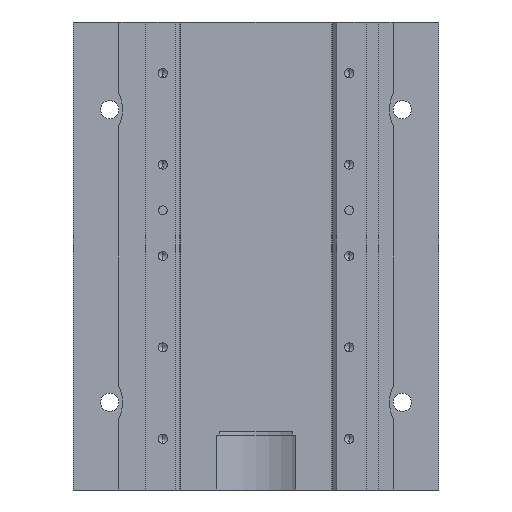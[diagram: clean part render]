
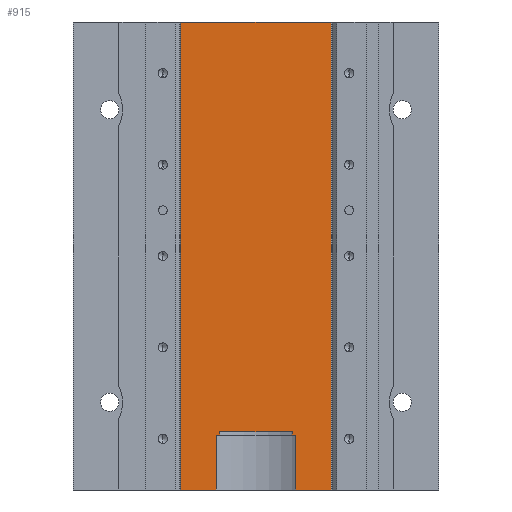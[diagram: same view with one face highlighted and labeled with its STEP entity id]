
A CAD part, front view. The second image highlights one B-rep face of the part: STEP entity #915.
In plain terms, the highlighted planar face has unit normal (0, -1, 0).
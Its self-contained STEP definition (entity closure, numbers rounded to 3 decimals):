
#462 = VERTEX_POINT ( 'NONE', #2282 ) ;
#466 = VERTEX_POINT ( 'NONE', #2276 ) ;
#511 = VERTEX_POINT ( 'NONE', #2436 ) ;
#517 = VERTEX_POINT ( 'NONE', #2425 ) ;
#519 = EDGE_CURVE ( 'NONE', #511, #517, #2424, .T. ) ;
#524 = EDGE_CURVE ( 'NONE', #462, #466, #2409, .T. ) ;
#758 = VERTEX_POINT ( 'NONE', #2849 ) ;
#760 = EDGE_CURVE ( 'NONE', #758, #822, #2848, .T. ) ;
#797 = VERTEX_POINT ( 'NONE', #2913 ) ;
#799 = EDGE_CURVE ( 'NONE', #800, #797, #2912, .T. ) ;
#800 = VERTEX_POINT ( 'NONE', #2908 ) ;
#822 = VERTEX_POINT ( 'NONE', #2946 ) ;
#833 = VERTEX_POINT ( 'NONE', #2931 ) ;
#835 = EDGE_CURVE ( 'NONE', #517, #833, #2930, .T. ) ;
#915 = ADVANCED_FACE ( 'NONE', ( #3070 ), #3069, .F. ) ;
#916 = EDGE_LOOP ( 'NONE', ( #917, #919, #976, #977, #979, #980, #981, #982, #985, #988, #966, #968 ) ) ;
#917 = ORIENTED_EDGE ( 'NONE', *, *, #918, .T. ) ;
#918 = EDGE_CURVE ( 'NONE', #466, #511, #3064, .T. ) ;
#919 = ORIENTED_EDGE ( 'NONE', *, *, #519, .T. ) ;
#965 = EDGE_CURVE ( 'NONE', #987, #989, #3132, .T. ) ;
#966 = ORIENTED_EDGE ( 'NONE', *, *, #967, .T. ) ;
#967 = EDGE_CURVE ( 'NONE', #989, #462, #3128, .T. ) ;
#968 = ORIENTED_EDGE ( 'NONE', *, *, #524, .T. ) ;
#976 = ORIENTED_EDGE ( 'NONE', *, *, #835, .T. ) ;
#977 = ORIENTED_EDGE ( 'NONE', *, *, #978, .F. ) ;
#978 = EDGE_CURVE ( 'NONE', #822, #833, #3176, .T. ) ;
#979 = ORIENTED_EDGE ( 'NONE', *, *, #760, .F. ) ;
#980 = ORIENTED_EDGE ( 'NONE', *, *, #993, .T. ) ;
#981 = ORIENTED_EDGE ( 'NONE', *, *, #799, .T. ) ;
#982 = ORIENTED_EDGE ( 'NONE', *, *, #983, .T. ) ;
#983 = EDGE_CURVE ( 'NONE', #797, #984, #3172, .T. ) ;
#984 = VERTEX_POINT ( 'NONE', #3168 ) ;
#985 = ORIENTED_EDGE ( 'NONE', *, *, #986, .T. ) ;
#986 = EDGE_CURVE ( 'NONE', #984, #987, #3167, .T. ) ;
#987 = VERTEX_POINT ( 'NONE', #3163 ) ;
#988 = ORIENTED_EDGE ( 'NONE', *, *, #965, .T. ) ;
#989 = VERTEX_POINT ( 'NONE', #3162 ) ;
#993 = EDGE_CURVE ( 'NONE', #758, #800, #3155, .T. ) ;
#2276 = CARTESIAN_POINT ( 'NONE',  ( 9.915, -16.5, 15. ) ) ;
#2282 = CARTESIAN_POINT ( 'NONE',  ( 9.915, -16.5, 16. ) ) ;
#2408 = CARTESIAN_POINT ( 'NONE',  ( 9.915, -16.5, 0. ) ) ;
#2409 = LINE ( 'NONE', #2408, #2471 ) ;
#2421 = DIRECTION ( 'NONE',  ( 0., 0., -1. ) ) ;
#2422 = VECTOR ( 'NONE', #2421, 1000. ) ;
#2423 = CARTESIAN_POINT ( 'NONE',  ( 10.854, -16.5, 0. ) ) ;
#2424 = LINE ( 'NONE', #2423, #2422 ) ;
#2425 = CARTESIAN_POINT ( 'NONE',  ( 10.854, -16.5, 0. ) ) ;
#2436 = CARTESIAN_POINT ( 'NONE',  ( 10.854, -16.5, 15. ) ) ;
#2470 = DIRECTION ( 'NONE',  ( 0., 0., -1. ) ) ;
#2471 = VECTOR ( 'NONE', #2470, 1000. ) ;
#2845 = DIRECTION ( 'NONE',  ( 1., 0., 0. ) ) ;
#2846 = VECTOR ( 'NONE', #2845, 1000. ) ;
#2847 = CARTESIAN_POINT ( 'NONE',  ( -20.64, -16.5, 128. ) ) ;
#2848 = LINE ( 'NONE', #2847, #2846 ) ;
#2849 = CARTESIAN_POINT ( 'NONE',  ( -20.64, -16.5, 128. ) ) ;
#2908 = CARTESIAN_POINT ( 'NONE',  ( -20.64, -16.5, 0. ) ) ;
#2909 = DIRECTION ( 'NONE',  ( 1., 0., 0. ) ) ;
#2910 = VECTOR ( 'NONE', #2909, 1000. ) ;
#2911 = CARTESIAN_POINT ( 'NONE',  ( -20.64, -16.5, 0. ) ) ;
#2912 = LINE ( 'NONE', #2911, #2910 ) ;
#2913 = CARTESIAN_POINT ( 'NONE',  ( -10.854, -16.5, 0. ) ) ;
#2927 = DIRECTION ( 'NONE',  ( 1., 0., 0. ) ) ;
#2928 = VECTOR ( 'NONE', #2927, 1000. ) ;
#2929 = CARTESIAN_POINT ( 'NONE',  ( -20.64, -16.5, 0. ) ) ;
#2930 = LINE ( 'NONE', #2929, #2928 ) ;
#2931 = CARTESIAN_POINT ( 'NONE',  ( 20.64, -16.5, 0. ) ) ;
#2946 = CARTESIAN_POINT ( 'NONE',  ( 20.64, -16.5, 128. ) ) ;
#3061 = DIRECTION ( 'NONE',  ( 1., 0., 0. ) ) ;
#3062 = VECTOR ( 'NONE', #3061, 1000. ) ;
#3063 = CARTESIAN_POINT ( 'NONE',  ( -20.64, -16.5, 15. ) ) ;
#3064 = LINE ( 'NONE', #3063, #3062 ) ;
#3065 = DIRECTION ( 'NONE',  ( 0., 0., 1. ) ) ;
#3066 = DIRECTION ( 'NONE',  ( 0., 1., 0. ) ) ;
#3067 = CARTESIAN_POINT ( 'NONE',  ( -20.64, -16.5, 128. ) ) ;
#3068 = AXIS2_PLACEMENT_3D ( 'NONE', #3067, #3066, #3065 ) ;
#3069 = PLANE ( 'NONE',  #3068 ) ;
#3070 = FACE_OUTER_BOUND ( 'NONE', #916, .T. ) ;
#3125 = DIRECTION ( 'NONE',  ( 1., 0., 0. ) ) ;
#3126 = VECTOR ( 'NONE', #3125, 1000. ) ;
#3127 = CARTESIAN_POINT ( 'NONE',  ( -20.64, -16.5, 16. ) ) ;
#3128 = LINE ( 'NONE', #3127, #3126 ) ;
#3129 = DIRECTION ( 'NONE',  ( 0., 0., 1. ) ) ;
#3130 = VECTOR ( 'NONE', #3129, 1000. ) ;
#3131 = CARTESIAN_POINT ( 'NONE',  ( -9.915, -16.5, 0. ) ) ;
#3132 = LINE ( 'NONE', #3131, #3130 ) ;
#3152 = DIRECTION ( 'NONE',  ( 0., 0., -1. ) ) ;
#3153 = VECTOR ( 'NONE', #3152, 1000. ) ;
#3154 = CARTESIAN_POINT ( 'NONE',  ( -20.64, -16.5, 128. ) ) ;
#3155 = LINE ( 'NONE', #3154, #3153 ) ;
#3162 = CARTESIAN_POINT ( 'NONE',  ( -9.915, -16.5, 16. ) ) ;
#3163 = CARTESIAN_POINT ( 'NONE',  ( -9.915, -16.5, 15. ) ) ;
#3164 = DIRECTION ( 'NONE',  ( 1., 0., 0. ) ) ;
#3165 = VECTOR ( 'NONE', #3164, 1000. ) ;
#3166 = CARTESIAN_POINT ( 'NONE',  ( -20.64, -16.5, 15. ) ) ;
#3167 = LINE ( 'NONE', #3166, #3165 ) ;
#3168 = CARTESIAN_POINT ( 'NONE',  ( -10.854, -16.5, 15. ) ) ;
#3169 = DIRECTION ( 'NONE',  ( 0., 0., 1. ) ) ;
#3170 = VECTOR ( 'NONE', #3169, 1000. ) ;
#3171 = CARTESIAN_POINT ( 'NONE',  ( -10.854, -16.5, 0. ) ) ;
#3172 = LINE ( 'NONE', #3171, #3170 ) ;
#3173 = DIRECTION ( 'NONE',  ( 0., 0., -1. ) ) ;
#3174 = VECTOR ( 'NONE', #3173, 1000. ) ;
#3175 = CARTESIAN_POINT ( 'NONE',  ( 20.64, -16.5, 128. ) ) ;
#3176 = LINE ( 'NONE', #3175, #3174 ) ;
